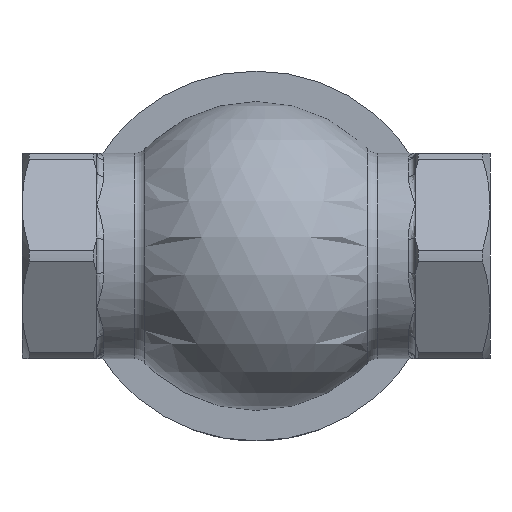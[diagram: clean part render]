
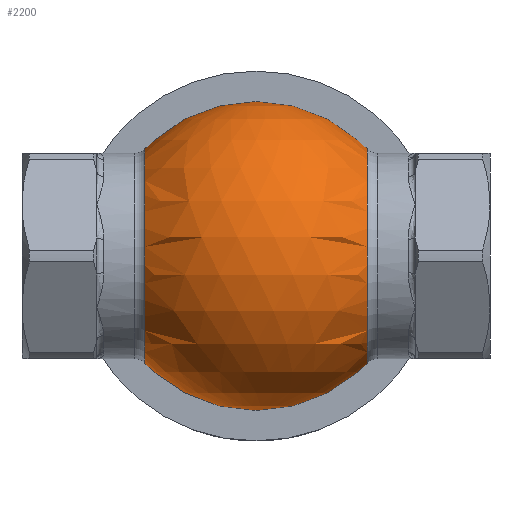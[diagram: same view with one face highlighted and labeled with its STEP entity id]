
A CAD part, front view. The second image highlights one B-rep face of the part: STEP entity #2200.
In plain terms, the highlighted spherical face has radius 16.5 mm.
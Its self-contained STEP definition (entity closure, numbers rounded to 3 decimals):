
#170=SPHERICAL_SURFACE('',#2447,16.5);
#203=B_SPLINE_CURVE_WITH_KNOTS('',3,(#4382,#4383,#4384,#4385,#4386,#4387,
#4388,#4389,#4390,#4391),.UNSPECIFIED.,.F.,.F.,(4,2,2,2,4),(0.,0.001,
0.001,0.001,0.002),
 .UNSPECIFIED.);
#204=B_SPLINE_CURVE_WITH_KNOTS('',3,(#4398,#4399,#4400,#4401,#4402,#4403,
#4404,#4405,#4406,#4407),.UNSPECIFIED.,.F.,.F.,(4,2,2,2,4),(0.,0.,
0.,0.001,0.002),
 .UNSPECIFIED.);
#205=B_SPLINE_CURVE_WITH_KNOTS('',3,(#4408,#4409,#4410,#4411,#4412,#4413,
#4414,#4415,#4416,#4417),.UNSPECIFIED.,.F.,.F.,(4,2,2,2,4),(0.,0.001,
0.001,0.001,0.002),
 .UNSPECIFIED.);
#206=B_SPLINE_CURVE_WITH_KNOTS('',3,(#4420,#4421,#4422,#4423,#4424,#4425,
#4426,#4427,#4428,#4429),.UNSPECIFIED.,.F.,.F.,(4,2,2,2,4),(0.,0.,
0.,0.001,0.002),
 .UNSPECIFIED.);
#288=FACE_OUTER_BOUND('',#443,.T.);
#443=EDGE_LOOP('',(#1593,#1594,#1595,#1596,#1597,#1598,#1599,#1600,#1601,
#1602,#1603,#1604,#1605,#1606));
#780=CIRCLE('',#2407,12.269);
#782=CIRCLE('',#2409,12.269);
#799=CIRCLE('',#2433,11.458);
#801=CIRCLE('',#2436,11.458);
#811=CIRCLE('',#2448,12.269);
#812=CIRCLE('',#2449,16.5);
#813=CIRCLE('',#2450,12.269);
#814=CIRCLE('',#2451,16.5);
#941=VERTEX_POINT('',#3383);
#942=VERTEX_POINT('',#3384);
#945=VERTEX_POINT('',#3420);
#973=VERTEX_POINT('',#3981);
#974=VERTEX_POINT('',#3983);
#975=VERTEX_POINT('',#3987);
#976=VERTEX_POINT('',#3988);
#997=VERTEX_POINT('',#4381);
#998=VERTEX_POINT('',#4392);
#999=VERTEX_POINT('',#4394);
#1000=VERTEX_POINT('',#4396);
#1001=VERTEX_POINT('',#4418);
#1155=EDGE_CURVE('',#941,#942,#780,.T.);
#1159=EDGE_CURVE('',#942,#945,#782,.T.);
#1196=EDGE_CURVE('',#973,#974,#799,.T.);
#1198=EDGE_CURVE('',#975,#976,#801,.T.);
#1223=EDGE_CURVE('',#976,#997,#203,.T.);
#1224=EDGE_CURVE('',#997,#998,#811,.T.);
#1225=EDGE_CURVE('',#999,#998,#812,.T.);
#1226=EDGE_CURVE('',#998,#1000,#813,.T.);
#1227=EDGE_CURVE('',#1000,#974,#204,.T.);
#1228=EDGE_CURVE('',#973,#941,#205,.T.);
#1229=EDGE_CURVE('',#942,#1001,#814,.T.);
#1230=EDGE_CURVE('',#945,#975,#206,.T.);
#1593=ORIENTED_EDGE('',*,*,#1198,.T.);
#1594=ORIENTED_EDGE('',*,*,#1223,.T.);
#1595=ORIENTED_EDGE('',*,*,#1224,.T.);
#1596=ORIENTED_EDGE('',*,*,#1225,.F.);
#1597=ORIENTED_EDGE('',*,*,#1225,.T.);
#1598=ORIENTED_EDGE('',*,*,#1226,.T.);
#1599=ORIENTED_EDGE('',*,*,#1227,.T.);
#1600=ORIENTED_EDGE('',*,*,#1196,.F.);
#1601=ORIENTED_EDGE('',*,*,#1228,.T.);
#1602=ORIENTED_EDGE('',*,*,#1155,.T.);
#1603=ORIENTED_EDGE('',*,*,#1229,.T.);
#1604=ORIENTED_EDGE('',*,*,#1229,.F.);
#1605=ORIENTED_EDGE('',*,*,#1159,.T.);
#1606=ORIENTED_EDGE('',*,*,#1230,.T.);
#2200=ADVANCED_FACE('',(#288),#170,.T.);
#2407=AXIS2_PLACEMENT_3D('',#3385,#2737,#2738);
#2409=AXIS2_PLACEMENT_3D('',#3452,#2741,#2742);
#2433=AXIS2_PLACEMENT_3D('',#3984,#2793,#2794);
#2436=AXIS2_PLACEMENT_3D('',#3989,#2799,#2800);
#2447=AXIS2_PLACEMENT_3D('',#4380,#2822,#2823);
#2448=AXIS2_PLACEMENT_3D('',#4393,#2824,#2825);
#2449=AXIS2_PLACEMENT_3D('',#4395,#2826,#2827);
#2450=AXIS2_PLACEMENT_3D('',#4397,#2828,#2829);
#2451=AXIS2_PLACEMENT_3D('',#4419,#2830,#2831);
#2737=DIRECTION('center_axis',(0.,-1.,0.));
#2738=DIRECTION('ref_axis',(0.,0.,-1.));
#2741=DIRECTION('center_axis',(0.,-1.,0.));
#2742=DIRECTION('ref_axis',(0.,0.,-1.));
#2793=DIRECTION('center_axis',(-1.,0.,0.));
#2794=DIRECTION('ref_axis',(0.,-1.,0.));
#2799=DIRECTION('center_axis',(-1.,0.,0.));
#2800=DIRECTION('ref_axis',(0.,-1.,0.));
#2822=DIRECTION('center_axis',(0.,0.,
1.));
#2823=DIRECTION('ref_axis',(0.,-1.,0.));
#2824=DIRECTION('center_axis',(0.,-1.,0.));
#2825=DIRECTION('ref_axis',(0.,0.,-1.));
#2826=DIRECTION('center_axis',(-1.,0.,0.));
#2827=DIRECTION('ref_axis',(0.,1.,0.));
#2828=DIRECTION('center_axis',(0.,-1.,0.));
#2829=DIRECTION('ref_axis',(0.,0.,-1.));
#2830=DIRECTION('center_axis',(-1.,0.,0.));
#2831=DIRECTION('ref_axis',(0.,1.,0.));
#3383=CARTESIAN_POINT('',(-11.543,11.032,-4.16));
#3384=CARTESIAN_POINT('',(0.,11.032,-12.269));
#3385=CARTESIAN_POINT('Origin',(0.,11.032,0.));
#3420=CARTESIAN_POINT('',(11.543,11.032,-4.16));
#3452=CARTESIAN_POINT('Origin',(0.,11.032,0.));
#3981=CARTESIAN_POINT('',(-11.873,10.14,-5.336));
#3983=CARTESIAN_POINT('',(-11.873,10.14,5.336));
#3984=CARTESIAN_POINT('Origin',(-11.873,0.,
0.));
#3987=CARTESIAN_POINT('',(11.873,10.14,-5.336));
#3988=CARTESIAN_POINT('',(11.873,10.14,5.336));
#3989=CARTESIAN_POINT('Origin',(11.873,0.,
0.));
#4380=CARTESIAN_POINT('Origin',(0.,0.,0.));
#4381=CARTESIAN_POINT('',(11.543,11.032,4.16));
#4382=CARTESIAN_POINT('Ctrl Pts',(11.873,10.14,5.336));
#4383=CARTESIAN_POINT('Ctrl Pts',(11.873,10.262,5.104));
#4384=CARTESIAN_POINT('Ctrl Pts',(11.859,10.388,4.874));
#4385=CARTESIAN_POINT('Ctrl Pts',(11.799,10.599,4.55));
#4386=CARTESIAN_POINT('Ctrl Pts',(11.773,10.673,4.445));
#4387=CARTESIAN_POINT('Ctrl Pts',(11.711,10.797,4.306));
#4388=CARTESIAN_POINT('Ctrl Pts',(11.686,10.841,4.262));
#4389=CARTESIAN_POINT('Ctrl Pts',(11.624,10.934,4.193));
#4390=CARTESIAN_POINT('Ctrl Pts',(11.587,10.983,4.167));
#4391=CARTESIAN_POINT('Ctrl Pts',(11.543,11.032,4.16));
#4392=CARTESIAN_POINT('',(0.,11.032,12.269));
#4393=CARTESIAN_POINT('Origin',(0.,11.032,0.));
#4394=CARTESIAN_POINT('',(0.,0.,16.5));
#4395=CARTESIAN_POINT('Origin',(0.,0.,0.));
#4396=CARTESIAN_POINT('',(-11.543,11.032,4.16));
#4397=CARTESIAN_POINT('Origin',(0.,11.032,0.));
#4398=CARTESIAN_POINT('Ctrl Pts',(-11.543,11.032,4.16));
#4399=CARTESIAN_POINT('Ctrl Pts',(-11.587,10.983,4.167));
#4400=CARTESIAN_POINT('Ctrl Pts',(-11.625,10.934,4.193));
#4401=CARTESIAN_POINT('Ctrl Pts',(-11.686,10.841,4.262));
#4402=CARTESIAN_POINT('Ctrl Pts',(-11.711,10.797,4.306));
#4403=CARTESIAN_POINT('Ctrl Pts',(-11.773,10.673,4.445));
#4404=CARTESIAN_POINT('Ctrl Pts',(-11.799,10.599,4.549));
#4405=CARTESIAN_POINT('Ctrl Pts',(-11.86,10.388,4.874));
#4406=CARTESIAN_POINT('Ctrl Pts',(-11.873,10.262,5.104));
#4407=CARTESIAN_POINT('Ctrl Pts',(-11.873,10.14,5.336));
#4408=CARTESIAN_POINT('Ctrl Pts',(-11.873,10.14,-5.336));
#4409=CARTESIAN_POINT('Ctrl Pts',(-11.873,10.262,-5.104));
#4410=CARTESIAN_POINT('Ctrl Pts',(-11.86,10.388,-4.874));
#4411=CARTESIAN_POINT('Ctrl Pts',(-11.799,10.599,-4.549));
#4412=CARTESIAN_POINT('Ctrl Pts',(-11.773,10.673,-4.445));
#4413=CARTESIAN_POINT('Ctrl Pts',(-11.711,10.797,-4.306));
#4414=CARTESIAN_POINT('Ctrl Pts',(-11.686,10.841,-4.262));
#4415=CARTESIAN_POINT('Ctrl Pts',(-11.625,10.934,-4.193));
#4416=CARTESIAN_POINT('Ctrl Pts',(-11.587,10.983,-4.167));
#4417=CARTESIAN_POINT('Ctrl Pts',(-11.543,11.032,-4.16));
#4418=CARTESIAN_POINT('',(0.,0.,-16.5));
#4419=CARTESIAN_POINT('Origin',(0.,0.,0.));
#4420=CARTESIAN_POINT('Ctrl Pts',(11.543,11.032,-4.16));
#4421=CARTESIAN_POINT('Ctrl Pts',(11.587,10.983,-4.167));
#4422=CARTESIAN_POINT('Ctrl Pts',(11.625,10.934,-4.193));
#4423=CARTESIAN_POINT('Ctrl Pts',(11.686,10.841,-4.262));
#4424=CARTESIAN_POINT('Ctrl Pts',(11.711,10.797,-4.306));
#4425=CARTESIAN_POINT('Ctrl Pts',(11.773,10.673,-4.445));
#4426=CARTESIAN_POINT('Ctrl Pts',(11.799,10.599,-4.549));
#4427=CARTESIAN_POINT('Ctrl Pts',(11.86,10.388,-4.874));
#4428=CARTESIAN_POINT('Ctrl Pts',(11.873,10.262,-5.104));
#4429=CARTESIAN_POINT('Ctrl Pts',(11.873,10.14,-5.336));
